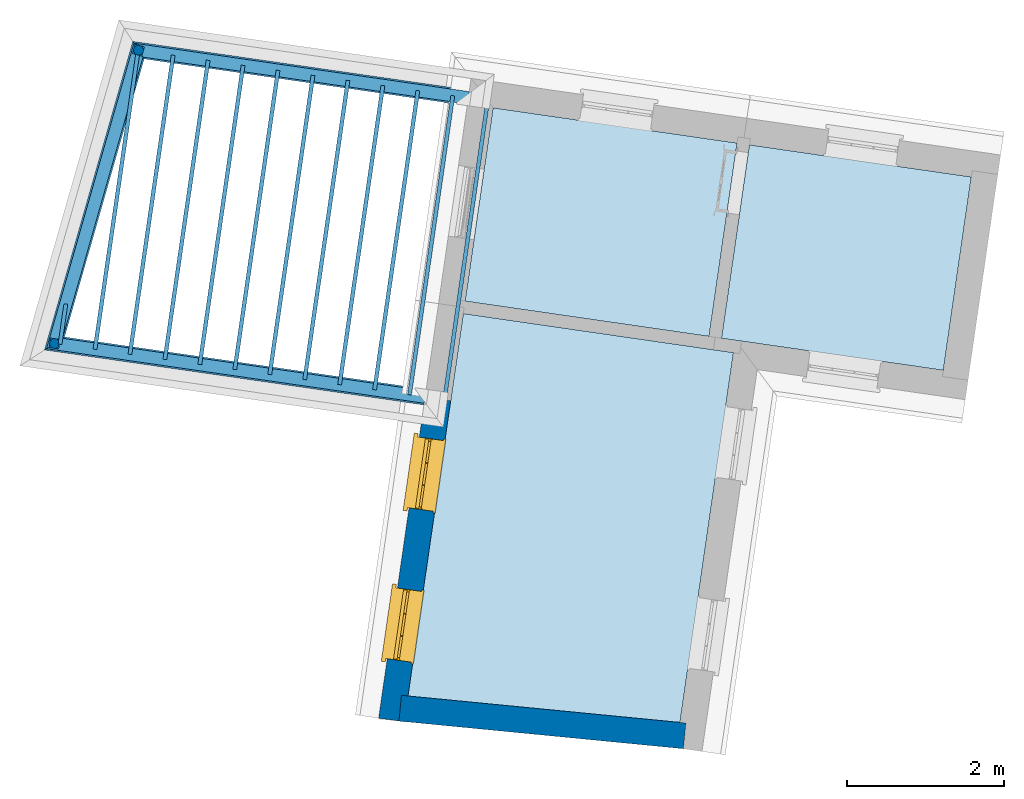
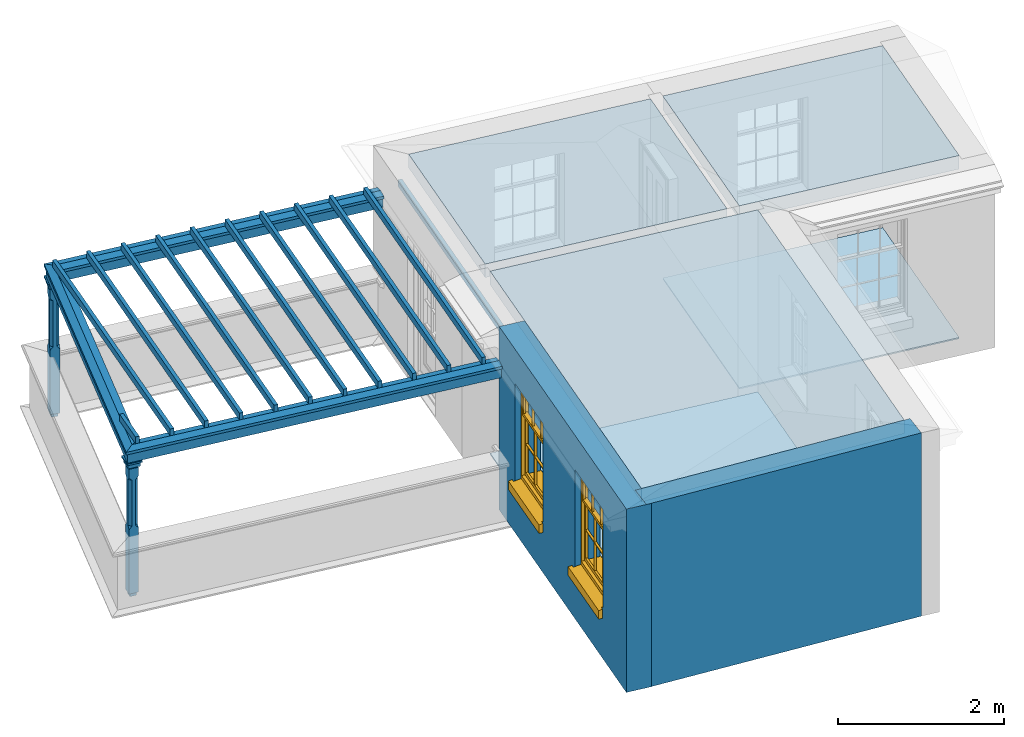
# One storey, part 1 of 4: 18 beams, 5 slabs, 2 columns, 2 walls, 2 windows, 2 openings.
"""IFC4 building model written with IfcOpenShell, lengths in metres."""

from ifc_helpers import new_model, si_unit, frame, origin, origin_with_axes, place, context, subcontext, project, spatial, polyline, outline, extrude, clip, halfspace, faceted_brep, source, transform, mapped, material, layer, layer_set, layer_usage, material_profile, profile_set, profile_usage, type_object, type_shapes, element, fill, save


model = new_model("IFC4")

# Units and contexts
model_context = context("Model", 3, world=origin_with_axes())
body_context = subcontext(model_context, "Body", "Model", "MODEL_VIEW")
ifc_project = project(units=[si_unit("PLANEANGLEUNIT", "RADIAN"), si_unit("MASSUNIT", "GRAM", prefix="KILO"), si_unit("FORCEUNIT", "NEWTON", prefix="KILO"), si_unit("LENGTHUNIT", "METRE"), si_unit("AREAUNIT", "SQUARE_METRE"), si_unit("VOLUMEUNIT", "CUBIC_METRE")], contexts=[model_context, model_context])

# Sites, building, storey
site_1_placement = place(None, origin_with_axes())
site_1 = spatial("IfcSite", under=ifc_project, at=site_1_placement, Name="Tamar")
site_2_placement = place(site_1_placement, origin_with_axes())
site_2 = spatial("IfcSite", under=site_1, at=site_2_placement, Name="Site plot-30", CompositionType="ELEMENT")
building_placement = place(None, origin_with_axes())
building = spatial("IfcBuilding", under=site_2, at=building_placement, Name="Building plot-30", CompositionType="ELEMENT")
storey_placement = place(None, frame((0.0, 0.0, 31.0), z_axis=(0.0, 0.0, 1.0), x_axis=(1.0, 0.0, 0.0)))
storey = spatial("IfcBuildingStorey", under=building, at=storey_placement, Name="plot-30 2", CompositionType="ELEMENT", Elevation=31.0)

# Columns
column_type = type_object("IfcColumnType", Name="pergola post", PredefinedType="NOTDEFINED")
shared_shape_1 = source(origin(), body_context, "Body", "Brep", [
    faceted_brep([(0.0246, -0.0615, 1.72), (0.0615, -0.0246, 1.72), (0.0615, -0.0615, 1.766667), (0.0615, -0.0246, 1.044444), (0.0246, -0.0615, 1.044444), (0.0615, 0.0246, 1.72), (0.0615, 0.0615, 1.766667), (-0.0246, -0.0615, 1.72), (-0.0615, -0.0615, 1.766667), (-0.0246, -0.0615, 1.044444), (0.0615, -0.0615, 0.997778), (0.0615, 0.0246, 1.044444), (0.0246, 0.0615, 1.72), (0.0615, 0.0615, 1.891111), (0.0615, -0.0615, 1.891111), (-0.0615, -0.0615, 1.891111), (-0.0615, -0.0246, 1.72), (-0.0615, -0.0246, 1.044444), (-0.0615, -0.0615, 0.997778), (0.0615, 0.0615, 0.997778), (0.0246, 0.0615, 1.044444), (-0.0246, 0.0615, 1.72), (-0.0615, 0.0615, 1.766667), (0.04305, 0.04305, 1.891111), (0.04305, -0.04305, 1.891111), (-0.0615, 0.0615, 1.891111), (-0.04305, -0.04305, 1.891111), (-0.0615, 0.0246, 1.72), (-0.0615, 0.0246, 1.044444), (0.0615, -0.0615, 0.053333), (-0.0615, -0.0615, 0.053333), (0.0615, 0.0615, 0.053333), (-0.0246, 0.0615, 1.044444), (-0.04305, 0.04305, 1.891111), (0.04305, 0.04305, 1.914444), (0.04305, -0.04305, 1.914444), (-0.04305, -0.04305, 1.914444), (-0.0615, 0.0615, 0.997778), (-0.0615, 0.0615, 0.053333), (-0.04305, -0.04305, 0.053333), (0.04305, -0.04305, 0.053333), (0.04305, 0.04305, 0.053333), (-0.04305, 0.04305, 1.914444), (0.07995, 0.07995, 1.914444), (0.07995, -0.07995, 1.914444), (-0.07995, -0.07995, 1.914444), (-0.04305, 0.04305, 0.053333), (-0.04305, -0.04305, 0.0), (0.04305, -0.04305, 0.0), (0.04305, 0.04305, 0.0), (-0.07995, 0.07995, 1.914444), (0.07995, 0.07995, 1.976667), (0.07995, -0.07995, 1.976667), (-0.07995, -0.07995, 1.976667), (-0.04305, 0.04305, 0.0), (-0.07995, 0.07995, 1.976667), (0.0984, 0.0984, 1.976667), (0.0984, -0.0984, 1.976667), (-0.0984, -0.0984, 1.976667), (-0.0984, 0.0984, 1.976667), (0.0984, 0.0984, 2.0), (0.0984, -0.0984, 2.0), (-0.0984, -0.0984, 2.0), (-0.0984, 0.0984, 2.0)], [[[0, 1, 2]], [[3, 1, 0, 4]], [[1, 5, 6, 2]], [[7, 0, 2, 8]], [[4, 0, 7, 9]], [[3, 4, 10]], [[1, 3, 11, 5]], [[5, 12, 6]], [[13, 14, 2, 6]], [[15, 8, 2, 14]], [[8, 16, 7]], [[9, 7, 16, 17]], [[9, 18, 10, 4]], [[3, 10, 19, 11]], [[20, 12, 5, 11]], [[21, 22, 6, 12]], [[14, 13, 23, 24]], [[13, 6, 22, 25]], [[25, 22, 8, 15]], [[26, 15, 14, 24]], [[16, 8, 22, 27]], [[27, 28, 17, 16]], [[17, 18, 9]], [[29, 10, 18, 30]], [[31, 19, 10, 29]], [[20, 11, 19]], [[12, 20, 32, 21]], [[21, 27, 22]], [[33, 23, 13, 25]], [[23, 34, 35, 24]], [[26, 33, 25, 15]], [[36, 26, 24, 35]], [[28, 27, 21, 32]], [[17, 28, 37, 18]], [[38, 30, 18, 37]], [[29, 30, 39, 40]], [[31, 38, 37, 19]], [[40, 41, 31, 29]], [[32, 20, 19, 37]], [[33, 42, 34, 23]], [[43, 44, 35, 34]], [[42, 33, 26, 36]], [[36, 35, 44, 45]], [[28, 32, 37]], [[46, 39, 30, 38]], [[39, 47, 48, 40]], [[46, 38, 31, 41]], [[49, 41, 40, 48]], [[43, 34, 42, 50]], [[43, 51, 52, 44]], [[45, 50, 42, 36]], [[53, 45, 44, 52]], [[46, 54, 47, 39]], [[54, 46, 41, 49]], [[50, 55, 51, 43]], [[56, 57, 52, 51]], [[55, 50, 45, 53]], [[53, 52, 57, 58]], [[56, 51, 55, 59]], [[56, 60, 61, 57]], [[58, 59, 55, 53]], [[62, 58, 57, 61]], [[59, 63, 60, 56]], [[63, 62, 61, 60]], [[58, 62, 63, 59]], [[47, 54, 49, 48]]]),
])
type_shapes(column_type, [shared_shape_1])
for number, where, z_axis, x_axis, name in (
    (1, (281.932718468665, 264.14507429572, 0.0), (0.0, 0.0, 1.0), (-0.275095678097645, -0.961416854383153, 0.0), "pergola post"),
    (2, (280.863315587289, 260.407676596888, 0.0), (0.0, 0.0, 1.0), (0.989705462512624, -0.143119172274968, 0.0), "pergola post"),
):
    element("IfcColumn", number, at=place(storey_placement, frame(where, z_axis=z_axis, x_axis=x_axis)), inside=storey, type_object=column_type, Name=name, context=body_context, shape_type="MappedRepresentation", body=[
        mapped(shared_shape_1, transform((0.0, 0.0, 0.0), scale=1.0)),
    ])

# Beams
ifc_material_profile_1 = material_profile(None, outline(polyline([(-0.08, -0.7), (0.08, -0.7), (0.08, -0.56), (-0.08, -0.56), (-0.08, -0.7)])))
ifc_profile_set_1 = profile_set([ifc_material_profile_1])
ifc_profile_usage_1 = profile_usage(ifc_profile_set_1)
beam_type_1 = type_object("IfcBeamType", Name="pergola beam_0", PredefinedType="NOTDEFINED", material=ifc_profile_set_1)
beam_1_placement = place(storey_placement, frame((280.943013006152, 264.288193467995, 2.7), z_axis=(0.989705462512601, -0.143119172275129, 0.0), x_axis=(0.143119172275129, 0.989705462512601, 0.0)))
element("IfcBeam", 3, at=beam_1_placement, inside=storey, type_object=beam_type_1, material=ifc_profile_usage_1, Name="pergola beam_0", context=body_context, shape_type="Clipping", body=[
    clip(clip(extrude(outline(polyline([(-0.08, -0.7), (0.08, -0.7), (0.08, -0.56), (-0.08, -0.56), (-0.08, -0.7)])), origin_with_axes(), (0.0, 0.0, 1.0), 6.2468961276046), halfspace(frame((0.0, 0.0, 5.2468961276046), z_axis=(9.26464106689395e-15, 0.0, -1.0), x_axis=(0.0, 1.0, 0.0)), True)), halfspace(frame((0.0, 0.0, 1.0), z_axis=(-0.657774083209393, 0.0, -0.753215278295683), x_axis=(0.0, 1.0, 0.0)), False)),
])
ifc_profile_usage_2 = profile_usage(ifc_profile_set_1)
beam_2_placement = place(storey_placement, frame((280.588219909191, 259.446259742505, 2.7), z_axis=(0.275095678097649, 0.961416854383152, 0.0), x_axis=(-0.961416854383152, 0.275095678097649, 0.0)))
element("IfcBeam", 4, at=beam_2_placement, inside=storey, type_object=beam_type_1, material=ifc_profile_usage_2, Name="pergola beam_0", context=body_context, shape_type="Clipping", body=[
    clip(clip(extrude(outline(polyline([(-0.08, -0.7), (0.08, -0.7), (0.08, -0.56), (-0.08, -0.56), (-0.08, -0.7)])), origin_with_axes(), (0.0, 0.0, 1.0), 5.88738525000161), halfspace(frame((0.0, 0.0, 4.88738525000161), z_axis=(0.657774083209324, 0.0, -0.753215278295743), x_axis=(0.0, 1.0, 0.0)), True)), halfspace(frame((0.0, 0.0, 1.0), z_axis=(-0.753215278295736, 0.0, -0.657774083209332), x_axis=(0.0, 1.0, 0.0)), False)),
])
ifc_profile_usage_3 = profile_usage(ifc_profile_set_1)
beam_3_placement = place(storey_placement, frame((286.574308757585, 259.581822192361, 2.7), z_axis=(-0.989705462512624, 0.143119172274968, 0.0), x_axis=(-0.143119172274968, -0.989705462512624, 0.0)))
element("IfcBeam", 5, at=beam_3_placement, inside=storey, type_object=beam_type_1, material=ifc_profile_usage_3, Name="pergola beam_0", context=body_context, shape_type="Clipping", body=[
    clip(clip(extrude(outline(polyline([(-0.08, -0.7), (0.08, -0.7), (0.08, -0.56), (-0.08, -0.56), (-0.08, -0.7)])), origin_with_axes(), (0.0, 0.0, 1.0), 6.77039673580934), halfspace(frame((0.0, 0.0, 5.77039673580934), z_axis=(0.753215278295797, 0.0, -0.657774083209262), x_axis=(0.0, 1.0, 0.0)), True)), halfspace(frame((0.0, 0.0, 1.0), z_axis=(-4.72416904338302e-15, 0.0, -1.0), x_axis=(0.0, 1.0, 0.0)), False)),
])
ifc_material_profile_2 = material_profile(None, outline(polyline([(0.0, -0.5), (-0.1, -0.52), (-0.1, -0.56), (0.1, -0.56), (0.1, -0.52), (0.0, -0.5)])))
ifc_profile_set_2 = profile_set([ifc_material_profile_2])
ifc_profile_usage_4 = profile_usage(ifc_profile_set_2)
beam_type_2 = type_object("IfcBeamType", Name="pergola beam_1", PredefinedType="NOTDEFINED", material=ifc_profile_set_2)
beam_4_placement = place(storey_placement, frame((280.943013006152, 264.288193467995, 2.7), z_axis=(0.989705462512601, -0.143119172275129, 0.0), x_axis=(0.143119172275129, 0.989705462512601, 0.0)))
element("IfcBeam", 6, at=beam_4_placement, inside=storey, type_object=beam_type_2, material=ifc_profile_usage_4, Name="pergola beam_1", context=body_context, shape_type="Clipping", body=[
    clip(clip(extrude(outline(polyline([(0.0, -0.5), (-0.1, -0.52), (-0.1, -0.56), (0.1, -0.56), (0.1, -0.52), (0.0, -0.5)])), origin_with_axes(), (0.0, 0.0, 1.0), 6.2468961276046), halfspace(frame((0.0, 0.0, 5.2468961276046), z_axis=(9.26464106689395e-15, 0.0, -1.0), x_axis=(0.0, 1.0, 0.0)), True)), halfspace(frame((0.0, 0.0, 1.0), z_axis=(-0.657774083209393, 0.0, -0.753215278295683), x_axis=(0.0, 1.0, 0.0)), False)),
])
ifc_profile_usage_5 = profile_usage(ifc_profile_set_2)
beam_5_placement = place(storey_placement, frame((280.588219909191, 259.446259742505, 2.7), z_axis=(0.275095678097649, 0.961416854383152, 0.0), x_axis=(-0.961416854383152, 0.275095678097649, 0.0)))
element("IfcBeam", 7, at=beam_5_placement, inside=storey, type_object=beam_type_2, material=ifc_profile_usage_5, Name="pergola beam_1", context=body_context, shape_type="Clipping", body=[
    clip(clip(extrude(outline(polyline([(0.0, -0.5), (-0.1, -0.52), (-0.1, -0.56), (0.1, -0.56), (0.1, -0.52), (0.0, -0.5)])), origin_with_axes(), (0.0, 0.0, 1.0), 5.88738525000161), halfspace(frame((0.0, 0.0, 4.88738525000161), z_axis=(0.657774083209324, 0.0, -0.753215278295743), x_axis=(0.0, 1.0, 0.0)), True)), halfspace(frame((0.0, 0.0, 1.0), z_axis=(-0.753215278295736, 0.0, -0.657774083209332), x_axis=(0.0, 1.0, 0.0)), False)),
])
ifc_profile_usage_6 = profile_usage(ifc_profile_set_2)
beam_6_placement = place(storey_placement, frame((286.574308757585, 259.581822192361, 2.7), z_axis=(-0.989705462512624, 0.143119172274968, 0.0), x_axis=(-0.143119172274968, -0.989705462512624, 0.0)))
element("IfcBeam", 8, at=beam_6_placement, inside=storey, type_object=beam_type_2, material=ifc_profile_usage_6, Name="pergola beam_1", context=body_context, shape_type="Clipping", body=[
    clip(clip(extrude(outline(polyline([(0.0, -0.5), (-0.1, -0.52), (-0.1, -0.56), (0.1, -0.56), (0.1, -0.52), (0.0, -0.5)])), origin_with_axes(), (0.0, 0.0, 1.0), 6.77039673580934), halfspace(frame((0.0, 0.0, 5.77039673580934), z_axis=(0.753215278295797, 0.0, -0.657774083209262), x_axis=(0.0, 1.0, 0.0)), True)), halfspace(frame((0.0, 0.0, 1.0), z_axis=(-4.72416904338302e-15, 0.0, -1.0), x_axis=(0.0, 1.0, 0.0)), False)),
])
for number, where, name in (
    (9, (286.40806376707, 263.497904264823, 2.2), "My Beam"),
    (10, (285.962696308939, 263.562307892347, 2.2), "My Beam"),
    (11, (285.517328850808, 263.626711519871, 2.2), "My Beam"),
):
    element("IfcBeam", number, at=place(storey_placement, frame(where)), inside=storey, Name=name, ObjectType="Beam", context=body_context, shape_type="SweptSolid", body=[
        extrude(outline(polyline([(0.0, 0.0), (-0.0494852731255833, 0.0071559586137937), (-0.600776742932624, -3.80516471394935), (-0.55129146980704, -3.81232067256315), (0.0, 0.0)])), origin_with_axes(), (0.0, 0.0, 1.0), 0.1),
    ])
for number, where, name in (
    (12, (285.071961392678, 263.691115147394, 2.2), "My Beam"),
    (13, (284.626593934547, 263.755518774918, 2.2), "My Beam"),
):
    element("IfcBeam", number, at=place(storey_placement, frame(where)), inside=storey, Name=name, ObjectType="Beam", context=body_context, shape_type="SweptSolid", body=[
        extrude(outline(polyline([(0.0, 0.0), (-0.0494852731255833, 0.0071559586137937), (-0.60077674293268, -3.80516471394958), (-0.551291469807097, -3.81232067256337), (0.0, 0.0)])), origin_with_axes(), (0.0, 0.0, 1.0), 0.1),
    ])
beam_7_placement = place(storey_placement, frame((284.181226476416, 263.819922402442, 2.2)))
element("IfcBeam", 14, at=beam_7_placement, inside=storey, Name="My Beam", ObjectType="Beam", context=body_context, shape_type="SweptSolid", body=[
    extrude(outline(polyline([(0.0, 0.0), (-0.0494852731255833, 0.0071559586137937), (-0.60077674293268, -3.80516471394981), (-0.551291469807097, -3.8123206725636), (0.0, 0.0)])), origin_with_axes(), (0.0, 0.0, 1.0), 0.1),
])
for number, where, name in (
    (15, (283.735859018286, 263.884326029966, 2.2), "My Beam"),
    (16, (283.290491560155, 263.94872965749, 2.2), "My Beam"),
):
    element("IfcBeam", number, at=place(storey_placement, frame(where)), inside=storey, Name=name, ObjectType="Beam", context=body_context, shape_type="SweptSolid", body=[
        extrude(outline(polyline([(0.0, 0.0), (-0.0494852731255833, 0.0071559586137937), (-0.60077674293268, -3.80516471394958), (-0.551291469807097, -3.81232067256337), (0.0, 0.0)])), origin_with_axes(), (0.0, 0.0, 1.0), 0.1),
    ])
beam_8_placement = place(storey_placement, frame((282.845124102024, 264.013133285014, 2.2)))
element("IfcBeam", 17, at=beam_8_placement, inside=storey, Name="My Beam", ObjectType="Beam", context=body_context, shape_type="SweptSolid", body=[
    extrude(outline(polyline([(0.0, 0.0), (-0.0494852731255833, 0.0071559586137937), (-0.60077674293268, -3.80516471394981), (-0.551291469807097, -3.8123206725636), (0.0, 0.0)])), origin_with_axes(), (0.0, 0.0, 1.0), 0.1),
])
beam_9_placement = place(storey_placement, frame((282.399756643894, 264.077536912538, 2.2)))
element("IfcBeam", 18, at=beam_9_placement, inside=storey, Name="My Beam", ObjectType="Beam", context=body_context, shape_type="SweptSolid", body=[
    extrude(outline(polyline([(0.0, 0.0), (-0.0494852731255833, 0.0071559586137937), (-0.600776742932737, -3.80516471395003), (-0.551291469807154, -3.81232067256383), (0.0, 0.0)])), origin_with_axes(), (0.0, 0.0, 1.0), 0.1),
])
beam_10_placement = place(storey_placement, frame((281.95112053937, 264.119337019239, 2.2)))
element("IfcBeam", 19, at=beam_10_placement, inside=storey, Name="My Beam", ObjectType="Beam", context=body_context, shape_type="SweptSolid", body=[
    extrude(outline(polyline([(0.0, 0.0), (-0.0494852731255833, 0.0071559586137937), (-0.597508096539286, -3.78256119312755), (-0.548022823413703, -3.78971715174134), (0.0, 0.0)])), origin_with_axes(), (0.0, 0.0, 1.0), 0.1),
])
beam_11_placement = place(storey_placement, frame((281.031864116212, 260.906677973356, 2.2)))
element("IfcBeam", 20, at=beam_11_placement, inside=storey, Name="My Beam", ObjectType="Beam", context=body_context, shape_type="SweptSolid", body=[
    extrude(outline(polyline([(0.0, 0.0), (-0.0494852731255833, 0.0071559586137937), (-0.123619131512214, -0.505498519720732), (-0.0741338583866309, -0.512654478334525), (0.0, 0.0)])), origin_with_axes(), (0.0, 0.0, 1.0), 0.1),
])

# Slabs
slab_1_placement = place(storey_placement, frame((285.367224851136, 255.915943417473, 2.5)))
element("IfcSlab", 21, at=slab_1_placement, inside=storey, Name="My Slab", ObjectType="Slab", PredefinedType="FLOOR", context=body_context, shape_type="SweptSolid", body=[
    extrude(outline(polyline([(0.0, 0.0), (3.46581022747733, -0.337085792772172), (4.14721019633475, 4.37496822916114), (0.704643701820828, 4.87279034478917), (0.0, 0.0)])), origin_with_axes(), (0.0, 0.0, 1.0), 0.2),
])
slab_2_placement = place(storey_placement, frame((285.367224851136, 255.915943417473, 0.0)))
element("IfcSlab", 22, at=slab_2_placement, inside=storey, Name="My Slab", ObjectType="Slab", PredefinedType="FLOOR", context=body_context, shape_type="SweptSolid", body=[
    extrude(outline(polyline([(0.0, 0.0), (3.46581022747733, -0.337085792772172), (4.14721019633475, 4.37496822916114), (0.704643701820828, 4.87279034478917), (0.0, 0.0)])), origin_with_axes(), (0.0, 0.0, 1.0), 0.02),
])
slab_3_placement = place(storey_placement, frame((289.361802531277, 260.474647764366, 2.5)))
element("IfcSlab", 23, at=slab_3_placement, inside=storey, Name="My Slab", ObjectType="Slab", PredefinedType="FLOOR", context=body_context, shape_type="SweptSolid", body=[
    extrude(outline(polyline([(0.0, 0.0), (2.82705422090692, -0.408814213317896), (3.18333463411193, 2.05495542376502), (0.356280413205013, 2.46376963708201), (0.0, 0.0)])), origin_with_axes(), (0.0, 0.0, 1.0), 0.2),
])
slab_4_placement = place(storey_placement, frame((289.361802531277, 260.474647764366, 0.0)))
element("IfcSlab", 24, at=slab_4_placement, inside=storey, Name="My Slab", ObjectType="Slab", PredefinedType="FLOOR", context=body_context, shape_type="SweptSolid", body=[
    extrude(outline(polyline([(0.0, 0.0), (2.82705422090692, -0.408814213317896), (3.18333463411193, 2.05495542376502), (0.356280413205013, 2.46376963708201), (0.0, 0.0)])), origin_with_axes(), (0.0, 0.0, 1.0), 0.02),
])
slab_5_placement = place(storey_placement, frame((286.094767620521, 260.947086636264, 2.5)))
element("IfcSlab", 25, at=slab_5_placement, inside=storey, Name="My Slab", ObjectType="Slab", PredefinedType="FLOOR", context=body_context, shape_type="SweptSolid", body=[
    extrude(outline(polyline([(0.0, 0.0), (3.10868203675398, -0.449539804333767), (3.46496244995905, 2.01422983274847), (0.356280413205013, 2.46376963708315), (0.0, 0.0)])), origin_with_axes(), (0.0, 0.0, 1.0), 0.2),
])

# Wall, openings, windows
ifc_material_1 = material(Name="Masonry")
ifc_layer_1 = layer(ifc_material_1, 0.33, ventilated=False)
ifc_layer_set_1 = layer_set([ifc_layer_1], Name="exterior_0.08_0.25")
ifc_layer_usage_1 = layer_usage(ifc_layer_set_1, "AXIS2", "POSITIVE", -0.25)
wall_type_1 = type_object("IfcWallType", Name="exterior_0.08_0.25", PredefinedType="SOLIDWALL", material=ifc_layer_set_1)
wall_1_placement = place(storey_placement, frame((285.8320296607, 259.689161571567, 0.0), z_axis=(0.0, 0.0, 1.0), x_axis=(-0.143119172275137, -0.9897054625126, 0.0)))
wall_1 = element("IfcWall", 26, at=wall_1_placement, inside=storey, type_object=wall_type_1, material=ifc_layer_usage_1, Name="exterior", context=body_context, shape_type="SweptSolid", body=[
    extrude(outline(polyline([(5.60471260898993e-14, 0.0800000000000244), (-1.27105228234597e-13, -0.250000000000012), (4.13471951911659, -0.250000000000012), (4.1347195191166, 0.080000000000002), (5.60471260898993e-14, 0.0800000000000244)])), origin_with_axes(), (0.0, 0.0, 1.0), 2.7),
])
opening_1_placement = place(wall_1_placement, frame((0.516179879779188, 0.0, 0.75)))
opening_1 = element("IfcOpeningElement", 27, at=opening_1_placement, cuts=wall_1, Name="My Opening", ObjectType="Opening", context=body_context, shape_type="SweptSolid", body=[
    extrude(outline(polyline([(0.0, -0.269999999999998), (0.910000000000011, -0.269999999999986), (0.91, 1.1), (-1.14352971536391e-14, 1.09999999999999), (0.0, -0.269999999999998)])), origin_with_axes(), (0.0, 0.0, 1.0), 1.445),
])
opening_2_placement = place(wall_1_placement, frame((2.45853963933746, 0.0, 0.75)))
opening_2 = element("IfcOpeningElement", 28, at=opening_2_placement, cuts=wall_1, Name="My Opening", ObjectType="Opening", context=body_context, shape_type="SweptSolid", body=[
    extrude(outline(polyline([(0.0, -0.270000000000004), (0.910000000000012, -0.269999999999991), (0.910000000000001, 1.1), (-1.15463194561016e-14, 1.09999999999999), (0.0, -0.270000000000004)])), origin_with_axes(), (0.0, 0.0, 1.0), 1.445),
])
window_type = type_object("IfcWindowType", Name="sash_shorter", PartitioningType="DOUBLE_PANEL_HORIZONTAL", PredefinedType="NOTDEFINED")
shared_shape_2 = source(origin(), body_context, "Body", "Brep", [
    faceted_brep([(0.876875, 0.145, 0.999097), (0.876875, 0.145, 1.411875), (0.9, 0.145, 1.435), (0.033125, 0.145, 1.411875), (0.033125, 0.145, 0.999097), (0.01, 0.145, 1.435), (0.033125, 0.115, 1.411875), (0.01, 0.115, 1.435), (0.033125, 0.115, 0.999097), (0.876875, 0.115, 1.411875), (0.876875, 0.115, 0.999097), (0.9, 0.115, 1.435), (0.033125, 0.145, 0.960972), (0.01, 0.145, 0.960972), (0.033125, 0.145, 0.548195), (0.876875, 0.145, 0.960972), (0.876875, 0.145, 0.548195), (0.9, 0.145, 0.960972), (0.876875, 0.145, 0.538195), (0.876875, 0.145, 0.125417), (0.9, 0.145, 0.077167), (0.033125, 0.145, 0.125417), (0.033125, 0.145, 0.538195), (0.01, 0.145, 0.077167), (0.9, 0.115, 0.960972), (0.01, 0.115, 0.960972), (-0.0425, 0.0, 0.01), (-0.0425, -0.05, 0.001667), (0.0, 0.0, 0.01), (0.9525, 0.0, 0.01), (0.91, 0.0, 0.01), (0.9525, -0.05, 0.001667), (-0.02, 0.33, 0.077167), (0.0, 0.33, 0.077167), (-0.02, 0.36, 0.077167), (0.0, 0.19, 0.077167), (0.01, 0.19, 0.077167), (0.91, 0.19, 0.077167), (0.91, 0.33, 0.077167), (0.9, 0.19, 0.077167), (0.93, 0.33, 0.077167), (0.93, 0.36, 0.077167), (0.01, 0.145, 0.999097), (0.01, 0.175, 0.999097), (0.9, 0.145, 0.999097), (0.9, 0.175, 0.999097), (0.876875, 0.175, 0.125417), (0.876875, 0.175, 0.538195), (0.9, 0.175, 0.077167), (0.876875, 0.175, 0.548195), (0.876875, 0.175, 0.960972), (0.033125, 0.175, 0.125417), (0.01, 0.175, 0.077167), (0.033125, 0.175, 0.538195), (0.033125, 0.175, 0.960972), (0.033125, 0.175, 0.548195), (-0.02, 0.33, 0.052167), (-0.02, 0.36, 0.052167), (0.93, 0.36, 0.052167), (0.93, 0.33, 0.052167), (0.91, 0.33, 0.052167), (0.0, 0.33, 0.052167), (0.91, 0.1, 0.026667), (0.0, 0.1, 0.026667), (-0.0425, -0.05, -0.123333), (0.9525, -0.05, -0.123333), (-0.0425, 0.0, -0.123333), (0.9525, 0.0, -0.123333), (0.01, 0.19, 1.435), (0.9, 0.19, 1.435), (0.0, 0.19, 1.445), (0.91, 0.19, 1.445), (0.01, 0.1, 0.077167), (0.9, 0.1, 0.077167), (0.592292, 0.145, 0.125417), (0.592292, 0.175, 0.125417), (0.317708, 0.175, 0.125417), (0.317708, 0.145, 0.125417), (0.592292, 0.145, 0.548195), (0.317708, 0.145, 0.548195), (0.317708, 0.145, 0.538195), (0.592292, 0.145, 0.538195), (0.592292, 0.175, 0.548195), (0.317708, 0.175, 0.548195), (0.602292, 0.175, 0.548195), (0.602292, 0.145, 0.548195), (0.317708, 0.175, 0.538195), (0.307708, 0.175, 0.125417), (0.307708, 0.175, 0.538195), (0.602292, 0.175, 0.538195), (0.602292, 0.175, 0.125417), (0.592292, 0.175, 0.538195), (0.307708, 0.175, 0.548195), (0.317708, 0.175, 0.960972), (0.307708, 0.175, 0.960972), (0.602292, 0.175, 0.960972), (0.592292, 0.175, 0.960972), (0.307708, 0.145, 0.538195), (0.307708, 0.145, 0.125417), (0.307708, 0.145, 0.548195), (0.307708, 0.145, 0.960972), (0.592292, 0.145, 0.960972), (0.317708, 0.145, 0.960972), (0.602292, 0.145, 0.960972), (0.602292, 0.145, 0.538195), (0.602292, 0.145, 0.125417), (0.317708, 0.115, 1.411875), (0.307708, 0.115, 1.411875), (0.307708, 0.115, 0.999097), (0.317708, 0.115, 0.999097), (0.602292, 0.115, 1.411875), (0.592292, 0.115, 1.411875), (0.592292, 0.115, 0.999097), (0.602292, 0.115, 0.999097), (0.317708, 0.145, 0.999097), (0.307708, 0.145, 0.999097), (0.307708, 0.145, 1.411875), (0.317708, 0.145, 1.411875), (0.602292, 0.145, 0.999097), (0.592292, 0.145, 0.999097), (0.592292, 0.145, 1.411875), (0.602292, 0.145, 1.411875), (0.91, 0.1, 1.445), (0.9, 0.1, 1.435), (0.01, 0.1, 1.435), (0.0, 0.1, 1.445), (0.91, 0.0, 0.0), (0.0, 0.0, 0.0), (0.91, 0.33, 0.0), (0.0, 0.33, 0.0)], [[[0, 1, 2]], [[3, 4, 5]], [[6, 7, 8]], [[9, 10, 11]], [[12, 13, 14]], [[15, 16, 17]], [[18, 19, 20]], [[21, 22, 23]], [[24, 15, 17]], [[13, 12, 25]], [[26, 27, 28]], [[29, 30, 31]], [[32, 33, 34]], [[35, 36, 33]], [[37, 38, 39]], [[40, 41, 38]], [[42, 4, 43]], [[44, 45, 0]], [[46, 47, 48]], [[49, 50, 45]], [[51, 52, 53]], [[54, 55, 43]], [[38, 33, 36, 39]], [[41, 34, 33, 38]], [[56, 32, 34, 57]], [[57, 34, 41, 58]], [[58, 41, 40, 59]], [[57, 58, 60, 61]], [[52, 48, 39, 36]], [[62, 63, 28, 30]], [[27, 31, 30, 28]], [[27, 64, 65, 31]], [[66, 67, 65, 64]], [[2, 5, 68, 69]], [[68, 70, 71, 69]], [[20, 23, 72, 73]], [[73, 72, 63, 62]], [[74, 75, 76, 77]], [[78, 79, 80, 81]], [[78, 82, 83, 79]], [[16, 49, 84, 85]], [[86, 76, 87, 88]], [[89, 90, 75, 91]], [[92, 88, 53, 55]], [[82, 91, 86, 83]], [[93, 83, 92, 94]], [[95, 84, 82, 96]], [[89, 84, 49, 47]], [[97, 88, 87, 98]], [[22, 53, 88, 97]], [[81, 91, 75, 74]], [[80, 86, 91, 81]], [[77, 76, 86, 80]], [[99, 92, 55, 14]], [[100, 94, 92, 99]], [[101, 96, 82, 78]], [[79, 83, 93, 102]], [[85, 84, 95, 103]], [[104, 89, 47, 18]], [[105, 90, 89, 104]], [[104, 18, 16, 85]], [[80, 97, 98, 77]], [[104, 81, 74, 105]], [[103, 101, 78, 85]], [[99, 14, 22, 97]], [[102, 100, 99, 79]], [[106, 107, 108, 109]], [[110, 111, 112, 113]], [[114, 115, 116, 117]], [[118, 119, 120, 121]], [[107, 116, 115, 108]], [[111, 120, 119, 112]], [[109, 114, 117, 106]], [[113, 118, 121, 110]], [[85, 78, 81, 104]], [[84, 89, 91, 82]], [[83, 86, 88, 92]], [[79, 99, 97, 80]], [[109, 112, 119, 114]], [[102, 93, 96, 101]], [[106, 117, 120, 111]], [[98, 87, 51, 21]], [[6, 3, 116, 107]], [[110, 121, 1, 9]], [[19, 46, 90, 105]], [[26, 66, 64, 27]], [[29, 31, 65, 67]], [[25, 24, 112, 109]], [[11, 7, 106, 111]], [[75, 48, 52, 76]], [[43, 45, 96, 93]], [[45, 43, 114, 119]], [[5, 2, 120, 117]], [[24, 25, 102, 101]], [[42, 5, 4]], [[2, 44, 0]], [[49, 45, 48, 47]], [[52, 43, 55, 53]], [[14, 13, 23, 22]], [[20, 17, 16, 18]], [[24, 11, 10]], [[25, 8, 7]], [[8, 4, 3, 6]], [[9, 1, 0, 10]], [[15, 50, 49, 16]], [[18, 47, 46, 19]], [[21, 51, 53, 22]], [[14, 55, 54, 12]], [[44, 2, 69, 45]], [[68, 5, 42, 43]], [[36, 35, 70, 68]], [[39, 69, 71, 37]], [[62, 122, 123, 73]], [[63, 72, 124, 125]], [[8, 108, 115, 4]], [[113, 10, 0, 118]], [[94, 100, 12, 54]], [[17, 20, 73, 24]], [[72, 23, 13, 25]], [[52, 36, 68, 43]], [[69, 39, 48, 45]], [[11, 24, 73, 123]], [[7, 124, 72, 25]], [[23, 77, 98]], [[98, 21, 23]], [[105, 74, 20]], [[20, 19, 105]], [[20, 74, 77, 23]], [[113, 112, 24]], [[24, 10, 113]], [[25, 109, 108]], [[108, 8, 25]], [[110, 9, 11]], [[11, 111, 110]], [[7, 6, 107]], [[107, 106, 7]], [[5, 117, 116]], [[116, 3, 5]], [[121, 120, 2]], [[2, 1, 121]], [[11, 123, 124, 7]], [[122, 125, 124, 123]], [[43, 93, 94]], [[94, 54, 43]], [[96, 45, 95]], [[50, 95, 45]], [[15, 103, 95, 50]], [[48, 75, 90]], [[90, 46, 48]], [[87, 76, 52]], [[52, 51, 87]], [[103, 15, 24]], [[24, 101, 103]], [[100, 102, 25]], [[25, 12, 100]], [[115, 114, 43]], [[43, 4, 115]], [[118, 0, 45]], [[45, 119, 118]], [[71, 70, 125, 122]], [[70, 35, 63, 125]], [[122, 62, 37, 71]], [[126, 67, 66, 127]], [[60, 58, 59]], [[38, 60, 59, 40]], [[61, 56, 57]], [[32, 56, 61, 33]], [[61, 60, 128, 129]], [[62, 60, 38, 37]], [[126, 128, 60, 62]], [[33, 61, 63, 35]], [[61, 129, 127, 63]], [[128, 126, 127, 129]], [[28, 127, 66, 26]], [[63, 127, 28]], [[29, 67, 126, 30]], [[30, 126, 62]]]),
])
type_shapes(window_type, [shared_shape_2])
window_1_placement = place(storey_placement, frame((285.490933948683, 259.216937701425, 0.75), z_axis=(0.0, 0.0, 1.0), x_axis=(-0.130238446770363, -0.900631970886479, 0.0)))
window_1 = element("IfcWindow", 29, at=window_1_placement, inside=storey, type_object=window_type, Name="bedroom outside window", OverallHeight=1.445, OverallWidth=0.91, context=body_context, shape_type="MappedRepresentation", body=[
    mapped(shared_shape_2, transform((0.0, 0.0, 0.0), scale=1.0)),
])
fill(opening_1, window_1)
window_2_placement = place(storey_placement, frame((285.212945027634, 257.294573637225, 0.75), z_axis=(0.0, 0.0, 1.0), x_axis=(-0.130238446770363, -0.900631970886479, 0.0)))
window_2 = element("IfcWindow", 30, at=window_2_placement, inside=storey, type_object=window_type, Name="bedroom outside window", OverallHeight=1.445, OverallWidth=0.91, context=body_context, shape_type="MappedRepresentation", body=[
    mapped(shared_shape_2, transform((0.0, 0.0, 0.0), scale=1.0)),
])
fill(opening_2, window_2)

# Wall
ifc_material_2 = material(Name="Masonry")
ifc_layer_2 = layer(ifc_material_2, 0.33, ventilated=False)
ifc_layer_set_2 = layer_set([ifc_layer_2], Name="party_0.08_0.25")
ifc_layer_usage_2 = layer_usage(ifc_layer_set_2, "AXIS2", "POSITIVE", -0.25)
wall_type_2 = type_object("IfcWallType", Name="party_0.08_0.25", PredefinedType="SOLIDWALL", material=ifc_layer_set_2)
wall_2_placement = place(storey_placement, frame((285.276051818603, 255.844433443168, 0.0), z_axis=(0.0, 0.0, 1.0), x_axis=(0.995303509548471, -0.0968035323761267, 0.0)))
element("IfcWall", 31, at=wall_2_placement, inside=storey, type_object=wall_type_2, material=ifc_layer_usage_2, Name="party", context=body_context, shape_type="SweptSolid", body=[
    extrude(outline(polyline([(-2.27502325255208e-14, 0.0800000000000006), (1.97160455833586e-14, -0.249999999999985), (3.64233848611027, -0.249999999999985), (3.64233848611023, 0.0800000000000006), (-2.27502325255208e-14, 0.0800000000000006)])), origin_with_axes(), (0.0, 0.0, 1.0), 2.7),
])

save(model, "model.ifc")
